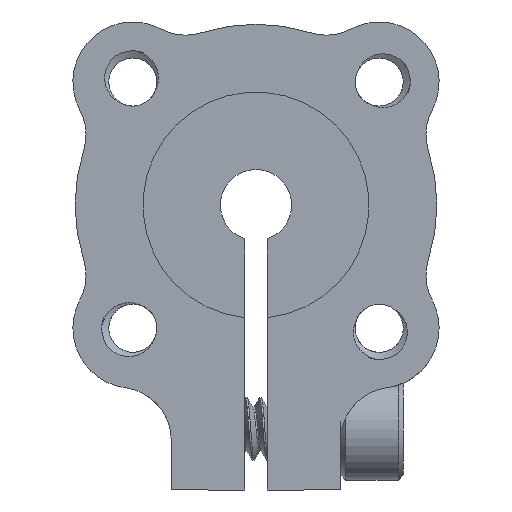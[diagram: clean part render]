
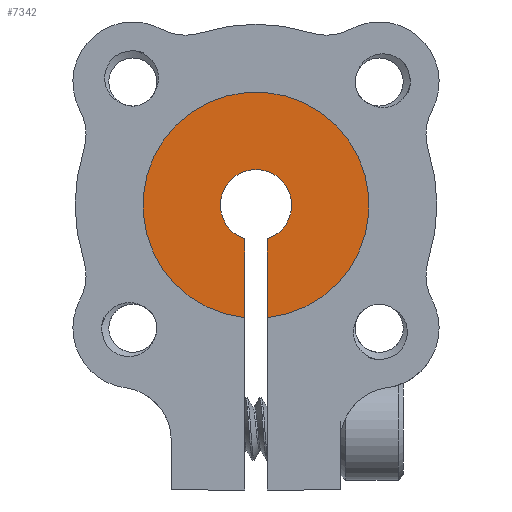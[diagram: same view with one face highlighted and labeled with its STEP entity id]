
A CAD part, front view. The second image highlights one B-rep face of the part: STEP entity #7342.
In plain terms, the highlighted planar face has unit normal (0, -1, 0).
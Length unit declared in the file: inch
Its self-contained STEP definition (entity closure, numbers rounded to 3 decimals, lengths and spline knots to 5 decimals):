
#350 = LINE ( 'NONE', #18365, #3166 ) ;
#958 = VERTEX_POINT ( 'NONE', #7010 ) ;
#2526 = VERTEX_POINT ( 'NONE', #13709 ) ;
#3166 = VECTOR ( 'NONE', #14122, 39.37008 ) ;
#3306 = CARTESIAN_POINT ( 'NONE',  ( -0.025, 0., -0.39922 ) ) ;
#3310 = DIRECTION ( 'NONE',  ( 0., 0., 1. ) ) ;
#3836 = LINE ( 'NONE', #3306, #5249 ) ;
#4072 = CIRCLE ( 'NONE', #8952, 0.25 ) ;
#5249 = VECTOR ( 'NONE', #16707, 39.37008 ) ;
#5990 = EDGE_CURVE ( 'NONE', #9563, #958, #4072, .T. ) ;
#6134 = DIRECTION ( 'NONE',  ( 0., 1., 0. ) ) ;
#7010 = CARTESIAN_POINT ( 'NONE',  ( 0.025, 0., -0.24875 ) ) ;
#7342 = ADVANCED_FACE ( 'NONE', ( #17146 ), #15843, .F. ) ;
#7455 = VERTEX_POINT ( 'NONE', #15918 ) ;
#7975 = EDGE_CURVE ( 'NONE', #2526, #7455, #19090, .T. ) ;
#8187 = ORIENTED_EDGE ( 'NONE', *, *, #5990, .F. ) ;
#8256 = CARTESIAN_POINT ( 'NONE',  ( 0., 0., 0. ) ) ;
#8952 = AXIS2_PLACEMENT_3D ( 'NONE', #15130, #6134, #3310 ) ;
#9563 = VERTEX_POINT ( 'NONE', #10976 ) ;
#10976 = CARTESIAN_POINT ( 'NONE',  ( -0.025, 0., -0.24875 ) ) ;
#11200 = ORIENTED_EDGE ( 'NONE', *, *, #7975, .F. ) ;
#11447 = DIRECTION ( 'NONE',  ( 0., 1., 0. ) ) ;
#11470 = CARTESIAN_POINT ( 'NONE',  ( 0., 0., 0. ) ) ;
#12791 = DIRECTION ( 'NONE',  ( 0., 0., -1. ) ) ;
#13133 = AXIS2_PLACEMENT_3D ( 'NONE', #8256, #11447, #15720 ) ;
#13709 = CARTESIAN_POINT ( 'NONE',  ( 0.025, 0., -0.07467 ) ) ;
#14122 = DIRECTION ( 'NONE',  ( 0., 0., -1. ) ) ;
#14503 = DIRECTION ( 'NONE',  ( 0., -1., 0. ) ) ;
#15084 = EDGE_CURVE ( 'NONE', #2526, #958, #350, .T. ) ;
#15130 = CARTESIAN_POINT ( 'NONE',  ( 0., 0., 0. ) ) ;
#15449 = ORIENTED_EDGE ( 'NONE', *, *, #18179, .T. ) ;
#15720 = DIRECTION ( 'NONE',  ( 0., 0., 1. ) ) ;
#15843 = PLANE ( 'NONE',  #13133 ) ;
#15918 = CARTESIAN_POINT ( 'NONE',  ( -0.025, 0., -0.07467 ) ) ;
#16690 = AXIS2_PLACEMENT_3D ( 'NONE', #11470, #14503, #12791 ) ;
#16707 = DIRECTION ( 'NONE',  ( 0., 0., 1. ) ) ;
#16900 = EDGE_LOOP ( 'NONE', ( #11200, #17207, #8187, #15449 ) ) ;
#17146 = FACE_OUTER_BOUND ( 'NONE', #16900, .T. ) ;
#17207 = ORIENTED_EDGE ( 'NONE', *, *, #15084, .T. ) ;
#18179 = EDGE_CURVE ( 'NONE', #9563, #7455, #3836, .T. ) ;
#18365 = CARTESIAN_POINT ( 'NONE',  ( 0.025, 0., -0.39922 ) ) ;
#19090 = CIRCLE ( 'NONE', #16690, 0.07874 ) ;
